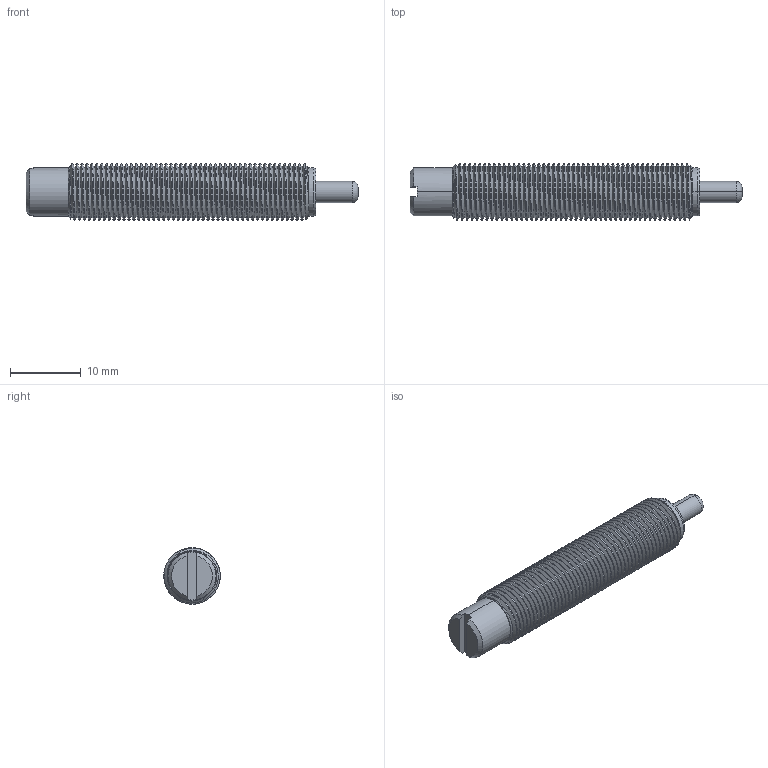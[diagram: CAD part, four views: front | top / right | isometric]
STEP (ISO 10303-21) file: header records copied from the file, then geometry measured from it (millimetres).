
FILE_DESCRIPTION (( '' ), '1' );
FILE_NAME ('IASS08-06-S.STEP', '', ( '' ), ( '' ), '', '', '' );
FILE_SCHEMA (( 'CONFIG_CONTROL_DESIGN' ));
Length unit declared in the file: millimetre
Products named in the file (1): SDS08-06
Bounding box: 47 x 7.99 x 8 mm (x, y, z)
Volume: 1815.2 mm3; surface area: 1765.4 mm2
Topology: 1 solids, 1 shells, 131 faces, 364 edges, 239 vertices
Faces by surface type: cylinder 104, cone 11, plane 10, torus 4, bspline 2
Entity records: 8332 total; most frequent: CARTESIAN_POINT 5469, ORIENTED_EDGE 728, DIRECTION 460, EDGE_CURVE 364, VERTEX_POINT 239, AXIS2_PLACEMENT_3D 171, EDGE_LOOP 135, FACE_OUTER_BOUND 131
